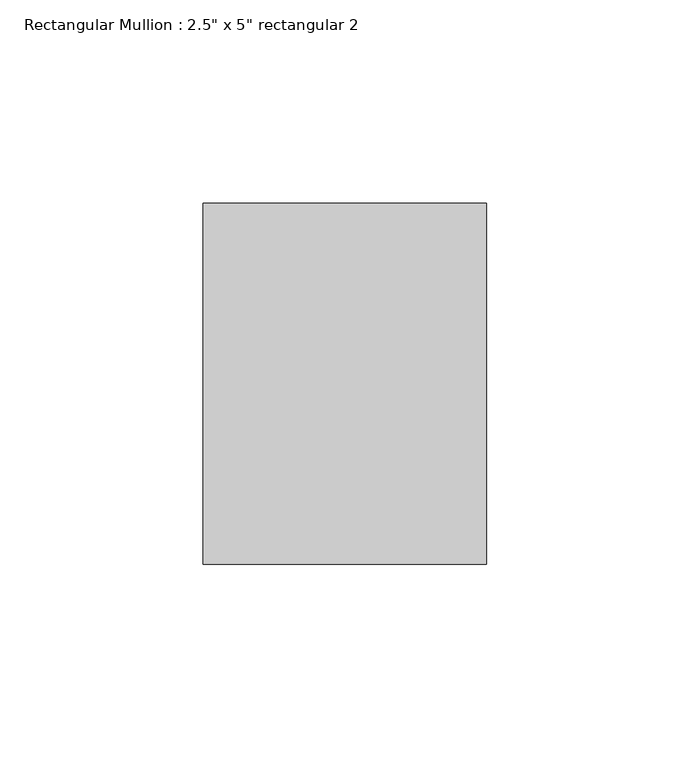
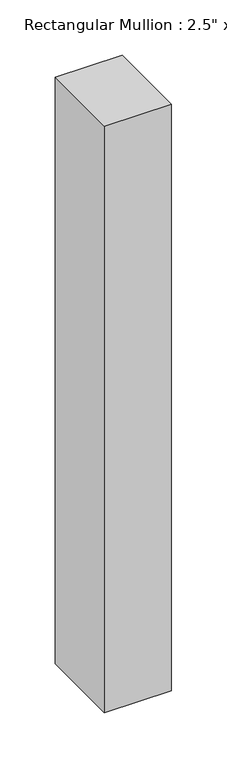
"""IFC4 building model written with IfcOpenShell, lengths in millimetres: member geometry."""

from ifc_helpers import new_model, si_unit, frame, origin, place, context, project, spatial, polyline, outline, extrude, source, transform, mapped, element, save


def member_a387d0b7(model_context):
    return source(origin(), model_context, "Body", "SweptSolid", [
        extrude(outline(polyline([(38.1, 44.45), (38.1, -44.45), (-31.75, -44.45), (-31.75, 44.45), (38.1, 44.45)])), frame((0.0, 0.0, -647.5774401), z_axis=(0.0, 0.0, 1.0), x_axis=(1.0, 0.0, 0.0)), (0.0, 0.0, 1.0), 647.5774401),
    ])


if __name__ == "__main__":
    model = new_model("IFC4")
    model_context = context("Model", 3, world=origin())
    ifc_project = project(units=[si_unit("LENGTHUNIT", "METRE", prefix="MILLI")], contexts=[model_context])
    site = spatial("IfcSite", under=ifc_project)
    building = spatial("IfcBuilding", under=site)
    placement = place(None, origin())
    member_shape = member_a387d0b7(model_context)
    element("IfcMember", 1, ObjectType="Rectangular Mullion : 2.5\" x 5\" rectangular 2", at=placement, inside=building, context=model_context, shape_type="MappedRepresentation", body=[
        mapped(member_shape, transform((0.0, 0.0, 0.0), x_axis=(1.0, 0.0, 0.0), y_axis=(0.0, 1.0, 0.0), z_axis=(0.0, 0.0, 1.0))),
    ])
    save(model, "model.ifc")
